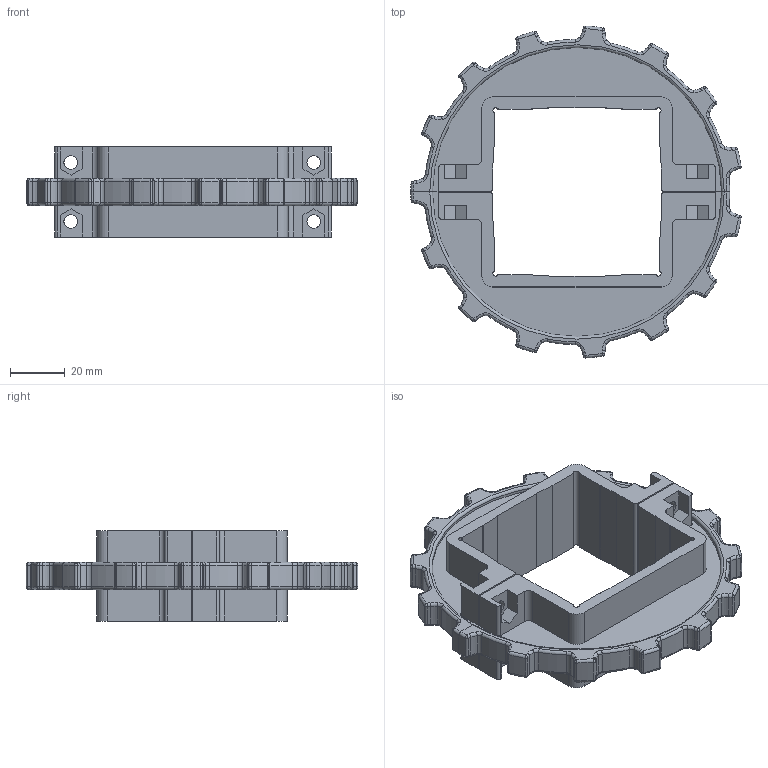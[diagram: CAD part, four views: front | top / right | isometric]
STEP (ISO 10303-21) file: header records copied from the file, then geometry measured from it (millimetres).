
FILE_DESCRIPTION(/* description */ (''),/* implementation_level */ '2;1');
FILE_NAME(/* name */ 'HS-502A-HD-15T.stp',/* time_stamp */ '2020-08-25T16:11:58+08:00',/* author */ (''),/* organization */ (''),/* preprocessor_version */ 'ST-DEVELOPER v15',/* originating_system */ 'SIEMENS PLM Software NX 8.5',/* authorisation */ '');
FILE_SCHEMA (('AP203_CONFIGURATION_CONTROLLED_3D_DESIGN_OF_MECHANICAL_PARTS_AND_ASSEMBLIES_MIM_LF { 1 0 10303 403 2 1 2}'));
Length unit declared in the file: millimetre
Products named in the file (1): Admi0428011Clfys
Bounding box: 120.77 x 121.34 x 33 mm (x, y, z)
Volume: 88895.1 mm3; surface area: 39309.7 mm2
Topology: 2 solids, 2 shells, 658 faces, 1658 edges, 944 vertices
Faces by surface type: cylinder 258, torus 188, plane 152, bspline 60
Full cylindrical faces by diameter (mm): 5.018 x8
Entity records: 22596 total; most frequent: CARTESIAN_POINT 7085, DIRECTION 3444, ORIENTED_EDGE 3172, EDGE_CURVE 1586, AXIS2_PLACEMENT_3D 1379, VERTEX_POINT 940, CIRCLE 772, LINE 686
